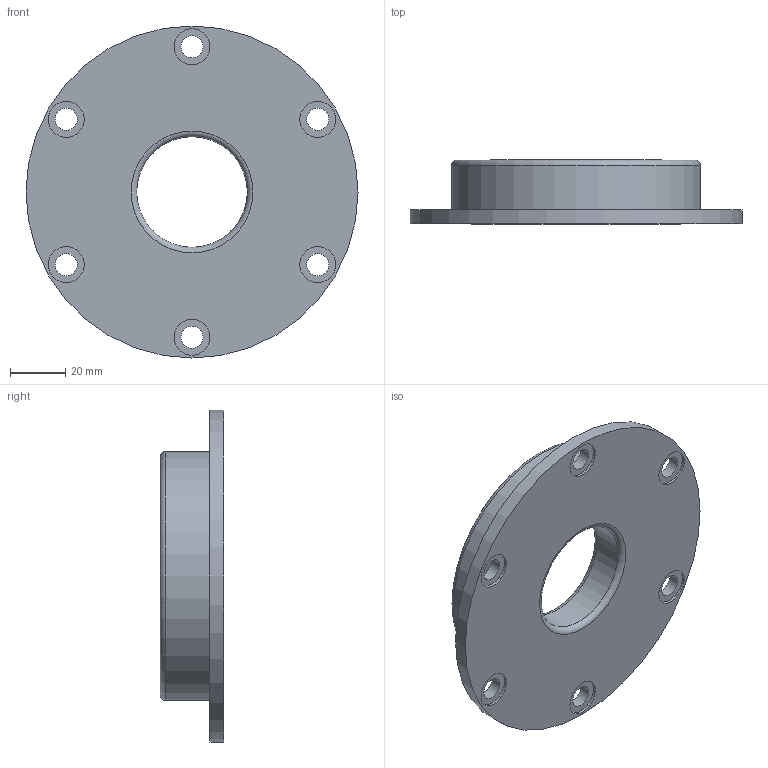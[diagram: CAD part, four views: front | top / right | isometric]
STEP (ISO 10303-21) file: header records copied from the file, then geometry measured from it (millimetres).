
FILE_DESCRIPTION(/* description */ (''),/* implementation_level */ '2;1');
FILE_NAME(/* name */ 'G:\YandexDisk\Работа\Inventor\Универ\ОАП\Лабораторные работы\ЛР6 Создание сборок\Редуктор\stp\Подшипниковый щит 1 2.stp',/* time_stamp */ '2023-11-17T06:34:19+03:00',/* author */ ('34740'),/* organization */ (''),/* preprocessor_version */ 'ST-DEVELOPER v18.1',/* originating_system */ 'Autodesk Inventor 2022',/* authorisation */ '');
FILE_SCHEMA (('AUTOMOTIVE_DESIGN { 1 0 10303 214 3 1 1 }'));
Length unit declared in the file: millimetre
Products named in the file (1): Подшипниковый 
щит 1 2
Bounding box: 120 x 23 x 120 mm (x, y, z)
Volume: 115388.2 mm3; surface area: 30233.1 mm2
Topology: 1 solids, 1 shells, 30 faces, 60 edges, 40 vertices
Faces by surface type: cylinder 16, plane 10, torus 4
Full cylindrical faces by diameter (mm): 8 x6, 13 x6, 40 x1, 74 x1, 90 x1, 120 x1
Entity records: 877 total; most frequent: DIRECTION 166, CARTESIAN_POINT 131, ORIENTED_EDGE 120, AXIS2_PLACEMENT_3D 75, EDGE_CURVE 60, EDGE_LOOP 52, CIRCLE 44, VERTEX_POINT 40
